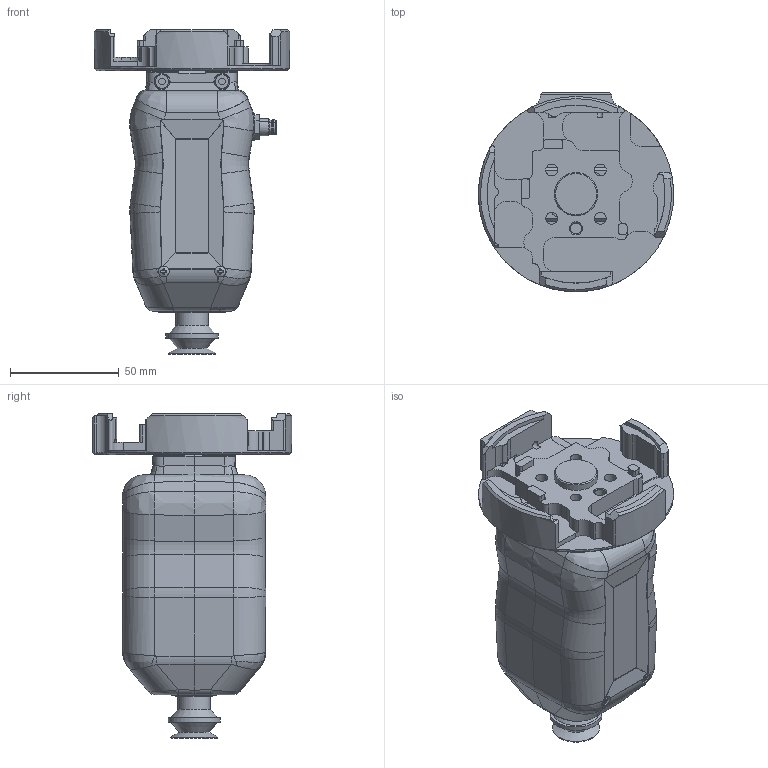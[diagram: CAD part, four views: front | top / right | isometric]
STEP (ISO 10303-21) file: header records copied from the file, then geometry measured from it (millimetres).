
FILE_DESCRIPTION(('STEP AP203'),'1');
FILE_NAME('(SGE-M5-N-ASSISTA).stp','2023-12-15T07:13:08',(' '),(' '),'Spatial InterOp 3D',' ',' ');
FILE_SCHEMA(('CONFIG_CONTROL_DESIGN'));
Length unit declared in the file: millimetre
Products named in the file (8): ASSISTA用フランジ; 参考図(SGE-M5-N); 45; 42; 39; PBG-20-N; TN-PF-20-M5
Assembly tree (7 placements, depth 3):
  (unnamed)
    ASSISTA用フランジ
    参考図(SGE-M5-N)
      45
      42
      39
    PBG-20-N
    TN-PF-20-M5
Bounding box: 89.96 x 92 x 149.6 mm (x, y, z)
Volume: 68867.1 mm3; surface area: 64753.1 mm2
Topology: 5 solids, 592 shells, 1004 faces, 4381 edges, 4014 vertices
Faces by surface type: plane 479, cylinder 264, bspline 162, cone 76, torus 23
Full cylindrical faces by diameter (mm): 2.5 x5, 3 x2, 3.242 x1, 3.3 x3, 4 x2, 4.6 x1, 5 x2, 5.5 x4, 9.5 x4, 11 x2, 15 x1, 20 x1, 24 x1
Entity records: 55301 total; most frequent: CARTESIAN_POINT 22657, DIRECTION 6010, ORIENTED_EDGE 5432, EDGE_CURVE 4328, VERTEX_POINT 4003, AXIS2_PLACEMENT_3D 2040, LINE 1930, VECTOR 1930
